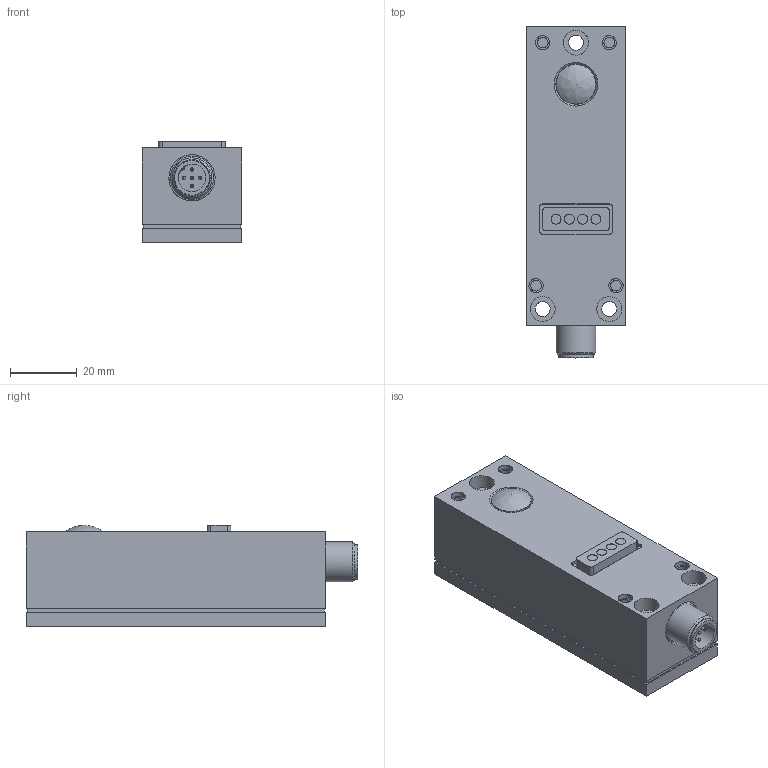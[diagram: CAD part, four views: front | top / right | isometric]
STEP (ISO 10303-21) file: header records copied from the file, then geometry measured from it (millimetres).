
FILE_DESCRIPTION((''),'2;1');
FILE_NAME('E:\temp\LS_64_E.stp','2007-03-22T11:13:48',('User'),('SDRC'), 'I-DEAS Master Series','UNIX','Yes');
FILE_SCHEMA(('CONFIG_CONTROL_DESIGN', 'GEOMETRIC_VALIDATION_PROPERTIES_MIM','SHAPE_APPEARANCE_LAYER_MIM'));
Length unit declared in the file: millimetre
Bounding box: 30 x 99.7 x 30.5 mm (x, y, z)
Volume: 75424.4 mm3; surface area: 15718.3 mm2
Topology: 1 solids, 3 shells, 208 faces, 479 edges, 313 vertices
Faces by surface type: bspline 208
Entity records: 6860 total; most frequent: CARTESIAN_POINT 3732, ORIENTED_EDGE 930, EDGE_CURVE 465, VERTEX_POINT 299, OVER_RIDING_STYLED_ITEM 259, EDGE_LOOP 254, FACE_OUTER_BOUND 208, ADVANCED_FACE 208
